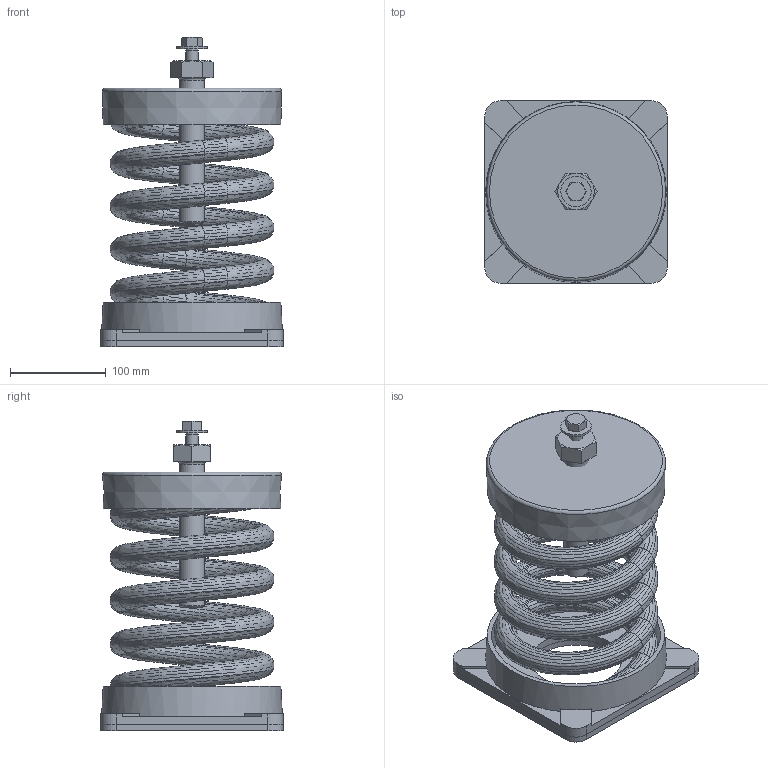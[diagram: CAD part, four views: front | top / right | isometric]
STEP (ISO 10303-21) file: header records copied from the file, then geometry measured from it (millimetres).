
FILE_DESCRIPTION(/* description */ (''),/* implementation_level */ '2;1');
FILE_NAME(/* name */ 'C:\001_Work\Designs\SLF ASSEMBLIES\SLF-136.stp',/* time_stamp */ '2016-01-11T10:00:49-05:00',/* author */ ('rramoutar'),/* organization */ ('Mason Industries Inc.'),/* preprocessor_version */ 'ST-DEVELOPER v15.6',/* originating_system */ 'Autodesk Inventor 2015',/* authorisation */ '');
FILE_SCHEMA (('CONFIG_CONTROL_DESIGN'));
Products named in the file (1): SLF-136
Bounding box: 190.5 x 190.5 x 322.94 mm (x, y, z)
Volume: 1099664 mm3; surface area: 654868 mm2
Topology: 7 solids, 7 shells, 700 faces, 1484 edges, 806 vertices
Faces by surface type: bspline 505, plane 136, cone 30, cylinder 26, torus 3
Full cylindrical faces by diameter (mm): 10.592 x1, 12.7 x5, 13.487 x1, 19.05 x1, 22.225 x1, 25.959 x1, 31.75 x1, 38.1 x1, 95.25 x2, 176.212 x2
Entity records: 38552 total; most frequent: CARTESIAN_POINT 26908, ORIENTED_EDGE 2906, EDGE_CURVE 1453, B_SPLINE_CURVE_WITH_KNOTS 1016, DIRECTION 874, VERTEX_POINT 800, EDGE_LOOP 743, STYLED_ITEM 707
